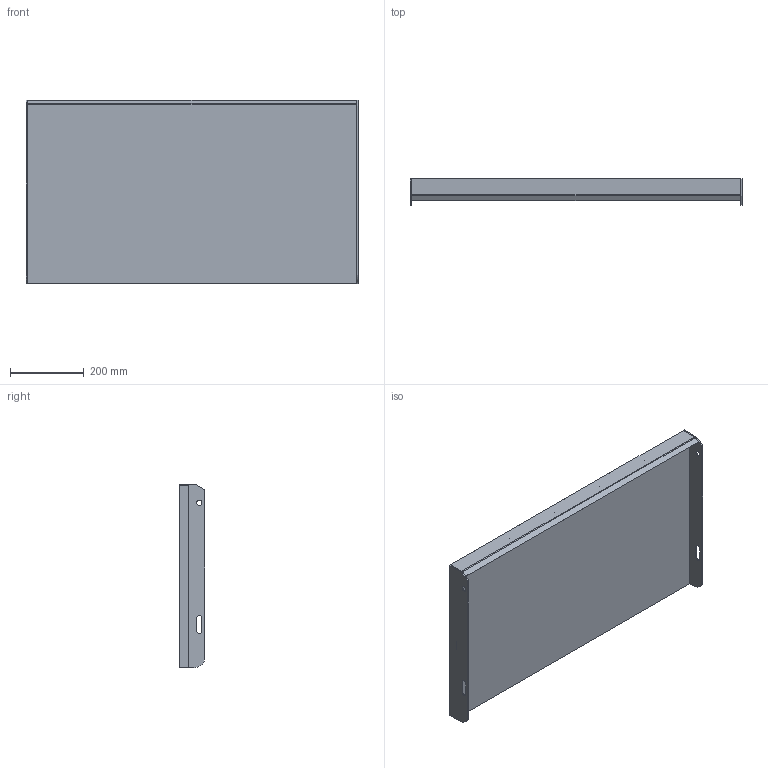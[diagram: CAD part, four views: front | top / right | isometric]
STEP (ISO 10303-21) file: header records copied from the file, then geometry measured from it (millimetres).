
FILE_DESCRIPTION (( 'STEP AP203' ), '1' );
FILE_NAME ('148809051, Plan TH6, 900x500, vfz.STEP', '2020-10-21T13:35:26', ( '' ), ( '' ), 'SwSTEP 2.0', 'SolidWorks 2019', '' );
FILE_SCHEMA (( 'CONFIG_CONTROL_DESIGN' ));
Length unit declared in the file: millimetre
Products named in the file (4): SW0000041836; SW0000041483; 148809051, Plan TH6, 900x500, vfz; SW0000041378
Assembly tree (4 placements, depth 2):
  148809051, Plan TH6, 900x500, vfz
    SW0000041836
    SW0000041378  x2
    SW0000041483
Bounding box: 900 x 70 x 497 mm (x, y, z)
Volume: 11401471.5 mm3; surface area: 1208125.3 mm2
Topology: 4 solids, 4 shells, 59 faces, 142 edges, 92 vertices
Faces by surface type: plane 45, cylinder 14
Entity records: 1693 total; most frequent: DIRECTION 221, CARTESIAN_POINT 220, ORIENTED_EDGE 206, EDGE_CURVE 103, VECTOR 87, LINE 87, AXIS2_PLACEMENT_3D 67, VERTEX_POINT 66
